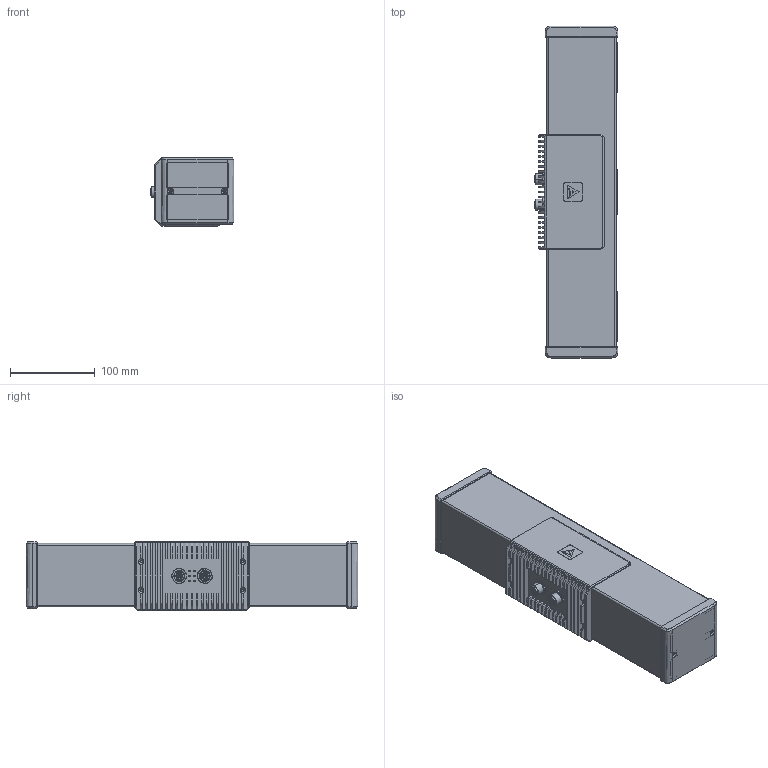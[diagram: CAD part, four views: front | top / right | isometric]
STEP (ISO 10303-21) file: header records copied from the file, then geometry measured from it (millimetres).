
FILE_DESCRIPTION (( 'STEP AP214' ), '1' );
FILE_NAME ('G51000-V3.0.STEP', '2024-10-11T07:49:01', ( '' ), ( '' ), 'SwSTEP 2.0', 'SolidWorks 2023', '' );
FILE_SCHEMA (( 'AUTOMOTIVE_DESIGN' ));
Length unit declared in the file: millimetre
Products named in the file (16): RVC-P-C-15-相机镜片压板-V3.1; RVC-G-C-16-压板内锁座-V3.1; RVC-G-C-17-激光镜片压板-V3.1; RVC-P-C-16-压板内锁座-V3.1; M12-B1-S8X; 防护镜片-40-45; G51000-V3.0; RVC-G-C-08-内锁螺丝座-V3.1; RVC-G-C-10-主散热板-V3.1; RVC-G-C-02-碳纤维管380-V3.1 ; RVC-G-C-20-内锁螺丝座-短-V3.1; RVC-G-C-19-端盖内锁座-V3.1; M12-B3-Sx-M12X1pin; RVC-G-C-07-相机端盖-V3.1; logo; RVC-G-C-03-相机安装底板-V3.1
Assembly tree (19 placements, depth 2):
  G51000-V3.0
    RVC-G-C-02-碳纤维管380-V3.1 
    RVC-G-C-16-压板内锁座-V3.1
    RVC-G-C-08-内锁螺丝座-V3.1
    RVC-G-C-20-内锁螺丝座-短-V3.1
    RVC-G-C-07-相机端盖-V3.1  x2
    RVC-G-C-10-主散热板-V3.1
    M12-B1-S8X
    M12-B3-Sx-M12X1pin
    RVC-P-C-16-压板内锁座-V3.1
    RVC-G-C-19-端盖内锁座-V3.1
    RVC-G-C-03-相机安装底板-V3.1
    RVC-G-C-17-激光镜片压板-V3.1
    RVC-P-C-15-相机镜片压板-V3.1  x2
    防护镜片-40-45  x3
    logo
Bounding box: 99 x 392 x 81 mm (x, y, z)
Volume: 479584 mm3; surface area: 374697.2 mm2
Topology: 19 solids, 19 shells, 2103 faces, 5478 edges, 3515 vertices
Faces by surface type: plane 864, cylinder 746, bspline 256, cone 166, torus 71
Entity records: 76353 total; most frequent: CARTESIAN_POINT 28716, ORIENTED_EDGE 10020, DIRECTION 9388, EDGE_CURVE 5010, AXIS2_PLACEMENT_3D 3276, VERTEX_POINT 3255, LINE 2836, VECTOR 2836
